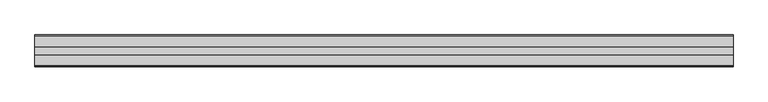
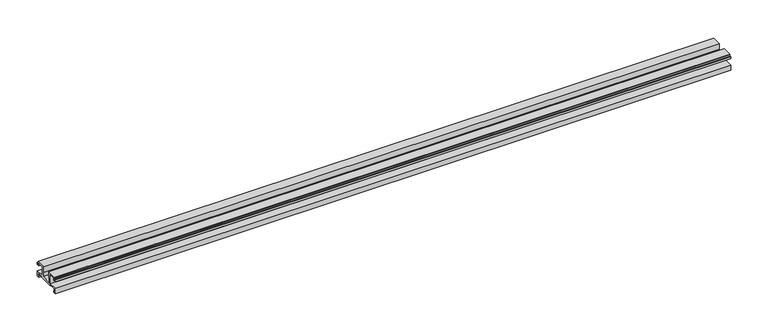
"""IFC4 building model written with IfcOpenShell, lengths in millimetres: proxy geometry, Weiku - Montante - Acoplamento vidro : Weiku - Montante - Acoplamento vidro."""

from ifc_helpers import new_model, si_unit, frame, origin, place, context, project, spatial, polyline, outline, extrude, source, transform, mapped, element, save


def generic_models_f971dcba(model_context):
    return source(origin(), model_context, "Body", "SweptSolid", [
        extrude(outline(polyline([(-35.405, 5.1494), (-35.405, 6.8004), (-45.741, 6.8004), (-45.741, 2.6094), (-43.8784, 2.6094), (-43.8784, 0.0), (-47.9014508, 0.0), (-47.9014508, 8.79), (-34.946, 8.79), (-34.946, 23.3104), (-43.5397, 23.3104), (-43.5397, 19.204), (-47.9, 19.204), (-47.9, 22.8024), (-46.9264, 22.8024), (-46.9264, 20.3894), (-44.725, 20.3894), (-44.725, 23.9454), (-45.5264504, 23.9454), (-45.5264504, 25.3), (-30.4164, 25.3), (-30.4164, 16.283), (-32.4484, 16.283), (-32.4484, 8.8), (-15.4516, 8.8), (-15.4516, 16.283), (-17.4836, 16.283), (-17.4836, 25.3), (-2.3735496, 25.3), (-2.3735496, 23.9454), (-3.175, 23.9454), (-3.175, 20.3894), (-0.9736, 20.3894), (-0.9736, 22.8024), (0.0, 22.8024), (0.0, 19.204), (-4.3603, 19.204), (-4.3603, 23.3104), (-12.954, 23.3104), (-12.954, 8.79), (0.0014508, 8.79), (0.0014508, 0.0), (-4.0216, 0.0), (-4.0216, 2.6094), (-2.159, 2.6094), (-2.159, 6.8004), (-12.495, 6.8004), (-12.495, 5.1494), (-35.405, 5.1494)])), frame((-522.95, 0.0, 0.0), z_axis=(1.0, 0.0, 0.0), x_axis=(0.0, 1.0, 0.0)), (0.0, 0.0, 1.0), 1045.9),
    ])


if __name__ == "__main__":
    model = new_model("IFC4")
    model_context = context("Model", 3, world=origin())
    ifc_project = project(units=[si_unit("LENGTHUNIT", "METRE", prefix="MILLI")], contexts=[model_context])
    site = spatial("IfcSite", under=ifc_project)
    building = spatial("IfcBuilding", under=site)
    placement = place(None, origin())
    generic_models_shape = generic_models_f971dcba(model_context)
    element("IfcBuildingElementProxy", 1, Name="Weiku - Montante - Acoplamento vidro : Weiku - Montante - Acoplamento vidro", ObjectType="Weiku - Montante - Acoplamento vidro : Weiku - Montante - Acoplamento vidro", at=placement, inside=building, context=model_context, shape_type="MappedRepresentation", body=[
        mapped(generic_models_shape, transform((0.0, 0.0, 0.0), x_axis=(1.0, 0.0, 0.0), y_axis=(0.0, 1.0, 0.0), z_axis=(0.0, 0.0, 1.0))),
    ])
    save(model, "model.ifc")
